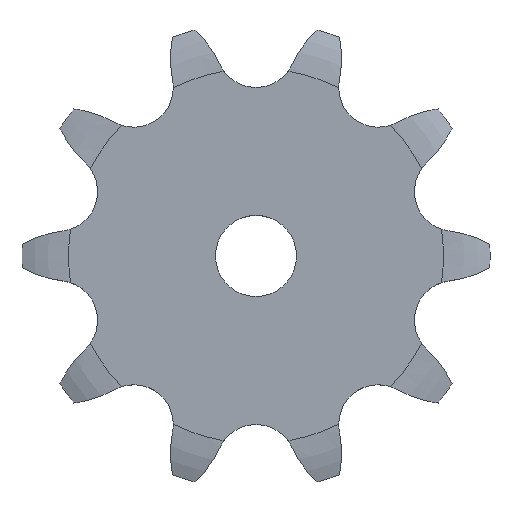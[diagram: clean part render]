
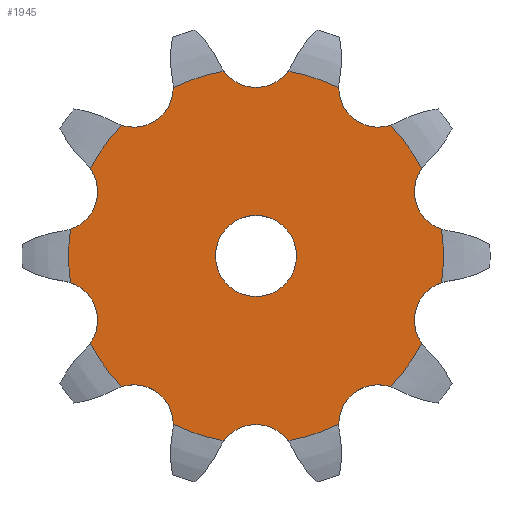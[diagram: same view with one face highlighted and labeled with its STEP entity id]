
A CAD part, top view. The second image highlights one B-rep face of the part: STEP entity #1945.
In plain terms, the highlighted planar face has unit normal (0, 0, 1).
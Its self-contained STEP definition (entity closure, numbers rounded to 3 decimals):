
#33=CARTESIAN_POINT('',(0.,0.,1.5));
#34=DIRECTION('',(0.,0.,-1.));
#35=DIRECTION('',(0.171,0.985,0.));
#36=AXIS2_PLACEMENT_3D('',#33,#34,#35);
#42=CARTESIAN_POINT('',(12.078,16.625,1.5));
#43=DIRECTION('',(0.,0.,1.));
#44=DIRECTION('',(-1.,-0.005,0.));
#45=AXIS2_PLACEMENT_3D('',#42,#43,#44);
#50=CARTESIAN_POINT('',(0.,0.,1.5));
#51=DIRECTION('',(0.,0.,-1.));
#52=DIRECTION('',(0.717,0.697,0.));
#53=AXIS2_PLACEMENT_3D('',#50,#51,#52);
#58=CARTESIAN_POINT('',(19.543,6.35,1.5));
#59=DIRECTION('',(0.,0.,1.));
#60=DIRECTION('',(-0.812,0.584,0.));
#61=AXIS2_PLACEMENT_3D('',#58,#59,#60);
#66=CARTESIAN_POINT('',(0.,0.,1.5));
#67=DIRECTION('',(0.,0.,-1.));
#68=DIRECTION('',(0.99,0.142,0.));
#69=AXIS2_PLACEMENT_3D('',#66,#67,#68);
#74=CARTESIAN_POINT('',(19.543,-6.35,1.5));
#75=DIRECTION('',(0.,0.,1.));
#76=DIRECTION('',(-0.314,0.95,0.));
#77=AXIS2_PLACEMENT_3D('',#74,#75,#76);
#82=CARTESIAN_POINT('',(0.,0.,1.5));
#83=DIRECTION('',(0.,0.,-1.));
#84=DIRECTION('',(0.884,-0.467,0.));
#85=AXIS2_PLACEMENT_3D('',#82,#83,#84);
#90=CARTESIAN_POINT('',(12.078,-16.625,1.5));
#91=DIRECTION('',(0.,0.,1.));
#92=DIRECTION('',(0.304,0.953,0.));
#93=AXIS2_PLACEMENT_3D('',#90,#91,#92);
#98=CARTESIAN_POINT('',(0.,0.,1.5));
#99=DIRECTION('',(0.,0.,-1.));
#100=DIRECTION('',(0.441,-0.897,0.));
#101=AXIS2_PLACEMENT_3D('',#98,#99,#100);
#106=CARTESIAN_POINT('',(0.,-20.549,1.5));
#107=DIRECTION('',(0.,0.,1.));
#108=DIRECTION('',(0.806,0.592,0.));
#109=AXIS2_PLACEMENT_3D('',#106,#107,#108);
#114=CARTESIAN_POINT('',(0.,0.,1.5));
#115=DIRECTION('',(0.,0.,-1.));
#116=DIRECTION('',(-0.171,-0.985,0.));
#117=AXIS2_PLACEMENT_3D('',#114,#115,#116);
#122=CARTESIAN_POINT('',(-12.078,-16.625,1.5));
#123=DIRECTION('',(0.,0.,1.));
#124=DIRECTION('',(1.,0.005,0.));
#125=AXIS2_PLACEMENT_3D('',#122,#123,#124);
#130=CARTESIAN_POINT('',(0.,0.,1.5));
#131=DIRECTION('',(0.,0.,-1.));
#132=DIRECTION('',(-0.717,-0.697,0.));
#133=AXIS2_PLACEMENT_3D('',#130,#131,#132);
#138=CARTESIAN_POINT('',(-19.543,-6.35,1.5));
#139=DIRECTION('',(0.,0.,1.));
#140=DIRECTION('',(0.812,-0.584,0.));
#141=AXIS2_PLACEMENT_3D('',#138,#139,#140);
#146=CARTESIAN_POINT('',(0.,0.,1.5));
#147=DIRECTION('',(0.,0.,-1.));
#148=DIRECTION('',(-0.99,-0.142,0.));
#149=AXIS2_PLACEMENT_3D('',#146,#147,#148);
#154=CARTESIAN_POINT('',(-19.543,6.35,1.5));
#155=DIRECTION('',(0.,0.,1.));
#156=DIRECTION('',(0.314,-0.95,0.));
#157=AXIS2_PLACEMENT_3D('',#154,#155,#156);
#162=CARTESIAN_POINT('',(0.,0.,1.5));
#163=DIRECTION('',(0.,0.,-1.));
#164=DIRECTION('',(-0.884,0.467,0.));
#165=AXIS2_PLACEMENT_3D('',#162,#163,#164);
#170=CARTESIAN_POINT('',(-12.078,16.625,1.5));
#171=DIRECTION('',(0.,0.,1.));
#172=DIRECTION('',(-0.304,-0.953,0.));
#173=AXIS2_PLACEMENT_3D('',#170,#171,#172);
#178=CARTESIAN_POINT('',(0.,0.,1.5));
#179=DIRECTION('',(0.,0.,-1.));
#180=DIRECTION('',(-0.441,0.897,0.));
#181=AXIS2_PLACEMENT_3D('',#178,#179,#180);
#186=CARTESIAN_POINT('',(0.,20.549,1.5));
#187=DIRECTION('',(0.,0.,1.));
#188=DIRECTION('',(-0.806,-0.592,0.));
#189=AXIS2_PLACEMENT_3D('',#186,#187,#188);
#194=CARTESIAN_POINT('',(0.,0.,1.5));
#195=DIRECTION('',(0.,0.,1.));
#196=DIRECTION('',(1.,0.,0.));
#197=AXIS2_PLACEMENT_3D('',#194,#195,#196);
#202=CARTESIAN_POINT('',(0.,0.,1.5));
#203=DIRECTION('',(0.,0.,1.));
#204=DIRECTION('',(-1.,0.,0.));
#205=AXIS2_PLACEMENT_3D('',#202,#203,#204);
#1680=CARTESIAN_POINT('',(3.155,18.233,1.5));
#1681=CARTESIAN_POINT('',(8.165,16.606,1.5));
#1682=VERTEX_POINT('',#1680);
#1683=VERTEX_POINT('',#1681);
#1684=CARTESIAN_POINT('',(13.27,12.896,1.5));
#1685=CARTESIAN_POINT('',(16.366,8.635,1.5));
#1686=VERTEX_POINT('',#1684);
#1687=VERTEX_POINT('',#1685);
#1688=CARTESIAN_POINT('',(18.316,2.634,1.5));
#1689=CARTESIAN_POINT('',(18.316,-2.634,1.5));
#1690=VERTEX_POINT('',#1688);
#1691=VERTEX_POINT('',#1689);
#1692=CARTESIAN_POINT('',(16.366,-8.635,1.5));
#1693=CARTESIAN_POINT('',(13.27,-12.896,1.5));
#1694=VERTEX_POINT('',#1692);
#1695=VERTEX_POINT('',#1693);
#1696=CARTESIAN_POINT('',(-3.155,-18.233,1.5));
#1697=CARTESIAN_POINT('',(-8.165,-16.606,1.5));
#1698=VERTEX_POINT('',#1696);
#1699=VERTEX_POINT('',#1697);
#1700=CARTESIAN_POINT('',(-13.27,-12.896,1.5));
#1701=CARTESIAN_POINT('',(-16.366,-8.635,1.5));
#1702=VERTEX_POINT('',#1700);
#1703=VERTEX_POINT('',#1701);
#1704=CARTESIAN_POINT('',(-18.316,-2.634,1.5));
#1705=CARTESIAN_POINT('',(-18.316,2.634,1.5));
#1706=VERTEX_POINT('',#1704);
#1707=VERTEX_POINT('',#1705);
#1708=CARTESIAN_POINT('',(-16.366,8.635,1.5));
#1709=CARTESIAN_POINT('',(-13.27,12.896,1.5));
#1710=VERTEX_POINT('',#1708);
#1711=VERTEX_POINT('',#1709);
#1770=CARTESIAN_POINT('',(8.165,-16.606,1.5));
#1771=VERTEX_POINT('',#1770);
#1774=CARTESIAN_POINT('',(3.155,-18.233,1.5));
#1775=VERTEX_POINT('',#1774);
#1790=CARTESIAN_POINT('',(-8.165,16.606,1.5));
#1791=CARTESIAN_POINT('',(-3.155,18.233,1.5));
#1792=VERTEX_POINT('',#1790);
#1793=VERTEX_POINT('',#1791);
#1798=CARTESIAN_POINT('',(4.,0.,1.5));
#1799=CARTESIAN_POINT('',(-4.,0.,1.5));
#1800=VERTEX_POINT('',#1798);
#1801=VERTEX_POINT('',#1799);
#1892=CARTESIAN_POINT('',(0.,0.,1.5));
#1893=DIRECTION('',(0.,0.,1.));
#1894=DIRECTION('',(1.,0.,0.));
#1895=AXIS2_PLACEMENT_3D('',#1892,#1893,#1894);
#1896=PLANE('',#1895);
#1898=ORIENTED_EDGE('',*,*,#1897,.T.);
#1900=ORIENTED_EDGE('',*,*,#1899,.T.);
#1902=ORIENTED_EDGE('',*,*,#1901,.T.);
#1904=ORIENTED_EDGE('',*,*,#1903,.T.);
#1906=ORIENTED_EDGE('',*,*,#1905,.T.);
#1908=ORIENTED_EDGE('',*,*,#1907,.T.);
#1910=ORIENTED_EDGE('',*,*,#1909,.T.);
#1912=ORIENTED_EDGE('',*,*,#1911,.T.);
#1914=ORIENTED_EDGE('',*,*,#1913,.T.);
#1916=ORIENTED_EDGE('',*,*,#1915,.T.);
#1918=ORIENTED_EDGE('',*,*,#1917,.T.);
#1920=ORIENTED_EDGE('',*,*,#1919,.T.);
#1922=ORIENTED_EDGE('',*,*,#1921,.T.);
#1924=ORIENTED_EDGE('',*,*,#1923,.T.);
#1926=ORIENTED_EDGE('',*,*,#1925,.T.);
#1928=ORIENTED_EDGE('',*,*,#1927,.T.);
#1930=ORIENTED_EDGE('',*,*,#1929,.T.);
#1932=ORIENTED_EDGE('',*,*,#1931,.T.);
#1934=ORIENTED_EDGE('',*,*,#1933,.T.);
#1936=ORIENTED_EDGE('',*,*,#1935,.T.);
#1937=EDGE_LOOP('',(#1898,#1900,#1902,#1904,#1906,#1908,#1910,#1912,#1914,#1916,
#1918,#1920,#1922,#1924,#1926,#1928,#1930,#1932,#1934,#1936));
#1938=FACE_OUTER_BOUND('',#1937,.F.);
#1940=ORIENTED_EDGE('',*,*,#1939,.T.);
#1942=ORIENTED_EDGE('',*,*,#1941,.T.);
#1943=EDGE_LOOP('',(#1940,#1942));
#1944=FACE_BOUND('',#1943,.F.);
#1945=ADVANCED_FACE('',(#1938,#1944),#1896,.T.);
#37=CIRCLE('',#36,18.504);
#46=CIRCLE('',#45,3.914);
#54=CIRCLE('',#53,18.504);
#62=CIRCLE('',#61,3.914);
#70=CIRCLE('',#69,18.504);
#78=CIRCLE('',#77,3.914);
#86=CIRCLE('',#85,18.504);
#94=CIRCLE('',#93,3.914);
#102=CIRCLE('',#101,18.504);
#110=CIRCLE('',#109,3.914);
#118=CIRCLE('',#117,18.504);
#126=CIRCLE('',#125,3.914);
#134=CIRCLE('',#133,18.504);
#142=CIRCLE('',#141,3.914);
#150=CIRCLE('',#149,18.504);
#158=CIRCLE('',#157,3.914);
#166=CIRCLE('',#165,18.504);
#174=CIRCLE('',#173,3.914);
#182=CIRCLE('',#181,18.504);
#190=CIRCLE('',#189,3.914);
#198=CIRCLE('',#197,4.);
#206=CIRCLE('',#205,4.);
#1897=EDGE_CURVE('',#1682,#1683,#37,.T.);
#1899=EDGE_CURVE('',#1683,#1686,#46,.T.);
#1901=EDGE_CURVE('',#1686,#1687,#54,.T.);
#1903=EDGE_CURVE('',#1687,#1690,#62,.T.);
#1905=EDGE_CURVE('',#1690,#1691,#70,.T.);
#1907=EDGE_CURVE('',#1691,#1694,#78,.T.);
#1909=EDGE_CURVE('',#1694,#1695,#86,.T.);
#1911=EDGE_CURVE('',#1695,#1771,#94,.T.);
#1913=EDGE_CURVE('',#1771,#1775,#102,.T.);
#1915=EDGE_CURVE('',#1775,#1698,#110,.T.);
#1917=EDGE_CURVE('',#1698,#1699,#118,.T.);
#1919=EDGE_CURVE('',#1699,#1702,#126,.T.);
#1921=EDGE_CURVE('',#1702,#1703,#134,.T.);
#1923=EDGE_CURVE('',#1703,#1706,#142,.T.);
#1925=EDGE_CURVE('',#1706,#1707,#150,.T.);
#1927=EDGE_CURVE('',#1707,#1710,#158,.T.);
#1929=EDGE_CURVE('',#1710,#1711,#166,.T.);
#1931=EDGE_CURVE('',#1711,#1792,#174,.T.);
#1933=EDGE_CURVE('',#1792,#1793,#182,.T.);
#1935=EDGE_CURVE('',#1793,#1682,#190,.T.);
#1939=EDGE_CURVE('',#1800,#1801,#198,.T.);
#1941=EDGE_CURVE('',#1801,#1800,#206,.T.);
